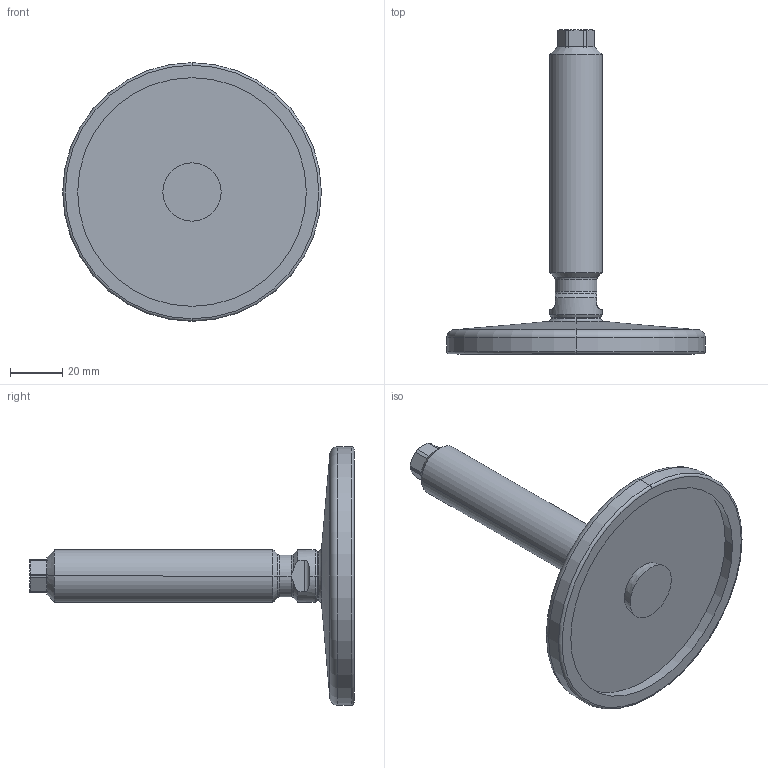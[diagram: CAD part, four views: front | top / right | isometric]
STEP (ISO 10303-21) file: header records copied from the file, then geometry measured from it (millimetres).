
FILE_DESCRIPTION (( 'STEP AP214' ), '1' );
FILE_NAME ('21-100-M20-100-D0-V.step', '2020-10-02T17:36:44', ( '' ), ( '' ), 'SwSTEP 2.0', 'SolidWorks 2019', '' );
FILE_SCHEMA (( 'AUTOMOTIVE_DESIGN' ));
Length unit declared in the file: millimetre
Products named in the file (3): WB21_Spindel_V^WB21_V_M20-100; WB21_Fußteller 21^WB21_V_D0-100-R12-B9 (M20); 21-100-M20-100-D0-V
Assembly tree (2 placements, depth 2):
  21-100-M20-100-D0-V
    WB21_Fußteller 21^WB21_V_D0-100-R12-B9 (M20)
    WB21_Spindel_V^WB21_V_M20-100
Bounding box: 99 x 124.02 x 99 mm (x, y, z)
Volume: 86400.7 mm3; surface area: 27149.2 mm2
Topology: 2 solids, 2 shells, 79 faces, 177 edges, 105 vertices
Faces by surface type: cylinder 23, cone 21, plane 21, torus 10, sphere 4
Entity records: 2434 total; most frequent: CARTESIAN_POINT 518, DIRECTION 406, ORIENTED_EDGE 354, EDGE_CURVE 177, AXIS2_PLACEMENT_3D 173, VERTEX_POINT 105, CIRCLE 89, EDGE_LOOP 82
